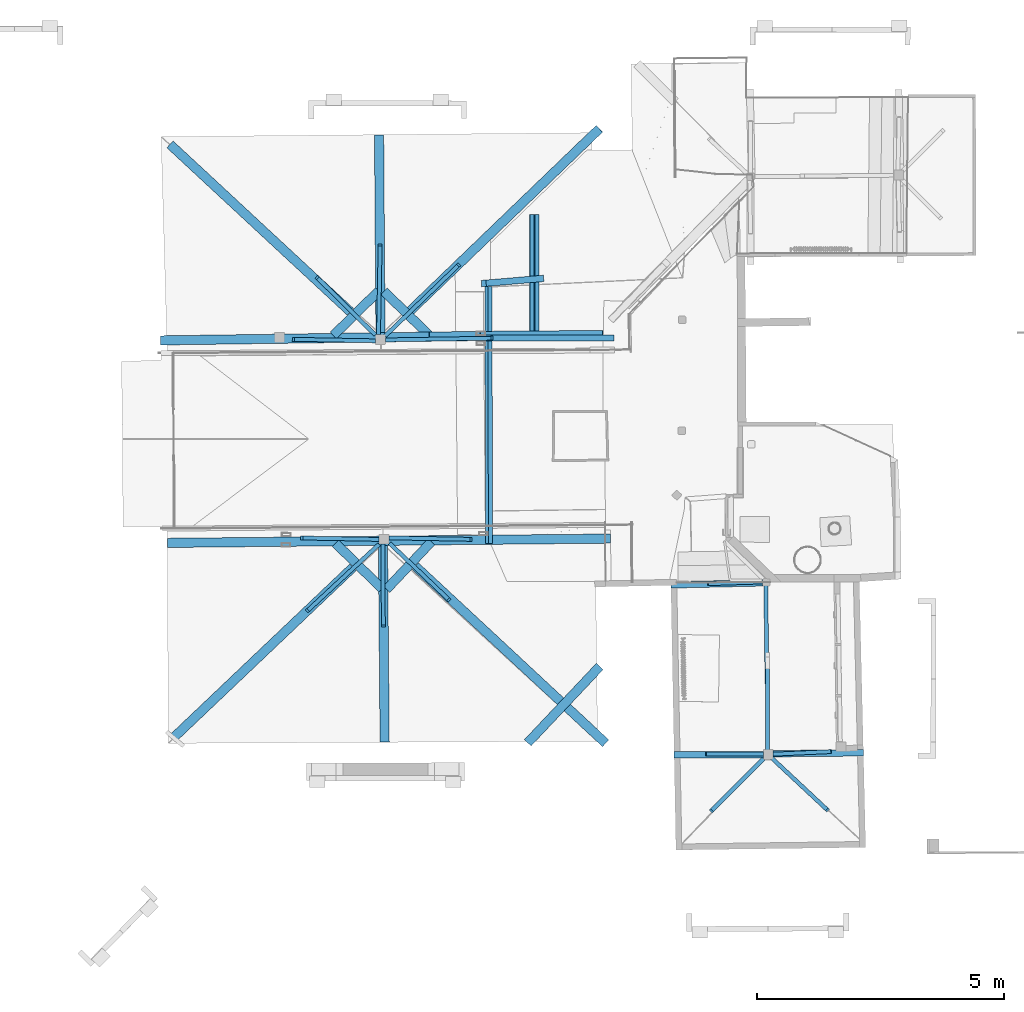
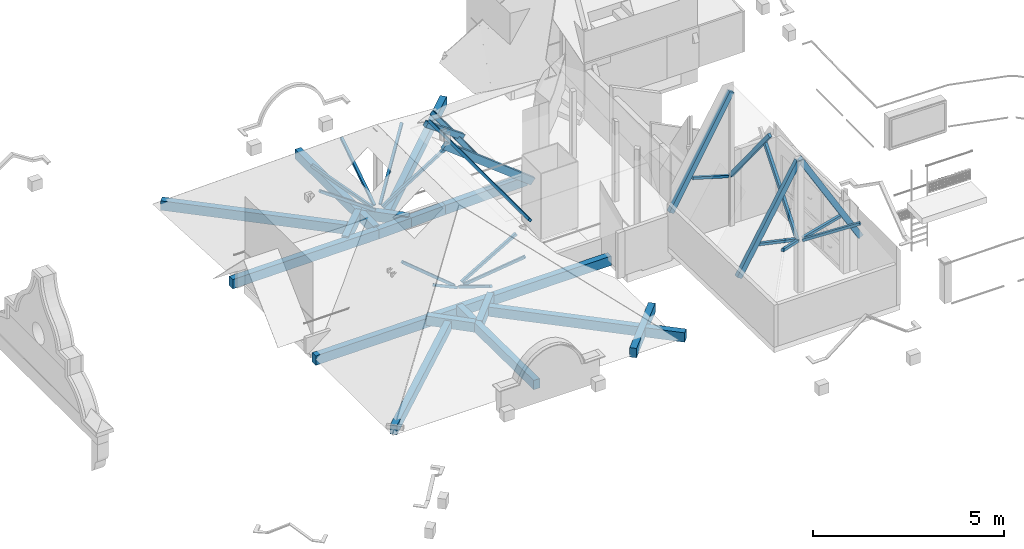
# One storey, part 4 of 39: 40 beams.
"""IFC2X3 building model written with IfcOpenShell, lengths in centimetres."""

from ifc_helpers import new_model, entity, si_unit, converted_unit, direction, frame, origin, origin_with_axes, origin_2d_with_axis, place, context, subcontext, project, spatial, rectangle, rounded_rectangle, extrude, source, transform, mapped, material, type_object, element, save


model = new_model("IFC2X3")

# Units and contexts
model_context = context("Model", 3, precision=0.0001, world=origin(), true_north=direction((0.225632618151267, 0.974212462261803, 0.0)))
body_context = subcontext(model_context, "Body", "Model", "MODEL_VIEW")
ifc_project = project(units=[si_unit("LENGTHUNIT", "METRE", prefix="CENTI"), si_unit("AREAUNIT", "SQUARE_METRE", prefix="CENTI"), si_unit("VOLUMEUNIT", "CUBIC_METRE", prefix="CENTI"), converted_unit("PLANEANGLEUNIT", "DEGREE", entity("IfcRatioMeasure", 0.0174532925), si_unit("PLANEANGLEUNIT", "RADIAN"), dimensions=[0, 0, 0, 0, 0, 0, 0])], contexts=[model_context])

# Site, building, storey
site_placement = place(None, origin_with_axes())
site = spatial("IfcSite", under=ifc_project, at=site_placement, Name="Default Site", CompositionType="ELEMENT")
building_placement = place(site_placement, origin_with_axes())
building = spatial("IfcBuilding", under=site, at=building_placement, Name="Default Building", CompositionType="ELEMENT")
storey_placement = place(building_placement, frame((0.0, 0.0, 1088.91037418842), z_axis=(0.0, 0.0, 1.0), x_axis=(1.0, 0.0, 0.0)))
storey = spatial("IfcBuildingStorey", under=building, at=storey_placement, Name="Mezzanine", CompositionType="ELEMENT", Elevation=1088.91037418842)

# Beams
ifc_material = material(Name="Eyong")
beam_type_1 = type_object("IfcBeamType", Name="120x220", PredefinedType="NOTDEFINED", material=ifc_material)
shared_shape_1 = source(origin_with_axes(), body_context, "Body", "SweptSolid", [
    extrude(rectangle(XDim=12.0, YDim=22.0, at=origin_2d_with_axis()), origin_with_axes(), (0.0, 0.0, 1.0), 100.0),
])
beam_1_placement = place(storey_placement, frame((-9.6526278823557, 135.559993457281, 213.702416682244), z_axis=(-0.789231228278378, -2.3520923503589e-08, 0.61409613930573), x_axis=(2.98023223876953e-08, -1.0, 0.0)))
element("IfcBeam", 1, at=beam_1_placement, inside=storey, type_object=beam_type_1, material=ifc_material, Name="Poutre 1819848", ObjectType="beam", context=body_context, shape_type="MappedRepresentation", body=[
    mapped(shared_shape_1, transform((-6.00000000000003, -10.9999999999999, 0.0), x_axis=(1.0, -3.30872245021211e-24, 6.61744490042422e-24), y_axis=(-2.00304890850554e-24, 1.0, 0.0), z_axis=(-8.8914162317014e-24, 6.60643094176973e-17, -1.0), scale=1.0, scale2=1.0, scale3=3.36103725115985, uniform=False)),
])
beam_type_2 = type_object("IfcBeamType", Name="150.0x150.0x25.0", PredefinedType="NOTDEFINED", material=ifc_material)
shared_shape_2 = source(origin_with_axes(), body_context, "Body", "SweptSolid", [
    extrude(rounded_rectangle(XDim=15.0, YDim=15.0, RoundingRadius=2.5, at=origin_2d_with_axis()), origin_with_axes(), (0.0, 0.0, 1.0), 100.0),
])
beam_2_placement = place(storey_placement, frame((85.7799993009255, 156.050019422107, 116.702416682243), z_axis=(-6.12323399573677e-17, -1.0, 0.0), x_axis=(0.707106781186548, -4.32978028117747e-17, 0.707106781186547)))
element("IfcBeam", 2, at=beam_2_placement, inside=storey, type_object=beam_type_2, material=ifc_material, Name="Poutre 1819841", ObjectType="beam", context=body_context, shape_type="MappedRepresentation", body=[
    mapped(shared_shape_2, transform((4.99999999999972, -7.50000000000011, 2.22044604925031e-14), x_axis=(1.0, 0.0, 1.66838336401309e-32), y_axis=(0.0, 1.0, -1.80509382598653e-33), z_axis=(-1.4772273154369e-32, -4.35788199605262e-33, -1.0), scale=1.0, scale2=1.0, scale3=2.36709980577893, uniform=False)),
])
beam_type_3 = type_object("IfcBeamType", Name="80x80", PredefinedType="NOTDEFINED", material=ifc_material)
shared_shape_3 = source(origin_with_axes(), body_context, "Body", "SweptSolid", [
    extrude(rectangle(XDim=8.0, YDim=8.0, at=origin_2d_with_axis()), origin_with_axes(), (0.0, 0.0, 1.0), 100.0),
])
beam_3_placement = place(storey_placement, frame((-227.642617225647, 140.218652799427, 79.7024166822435), z_axis=(0.817378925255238, -0.0149513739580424, -0.575906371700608), x_axis=(0.0182887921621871, 0.999832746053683, -2.00233586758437e-16)))
element("IfcBeam", 3, at=beam_3_placement, inside=storey, type_object=beam_type_3, material=ifc_material, Name="Poutre 1819922", ObjectType="beam", context=body_context, shape_type="MappedRepresentation", body=[
    mapped(shared_shape_3, transform((-4.00000000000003, -3.99999999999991, 0.0), x_axis=(1.0, -1.44297130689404e-18, 4.86614068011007e-18), y_axis=(-1.44297130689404e-18, 1.0, 0.0), z_axis=(-5.23927244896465e-18, -5.53245853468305e-17, -1.0), scale=1.0, scale2=1.0, scale3=2.0067444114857, uniform=False)),
])
beam_4_placement = place(storey_placement, frame((447.806314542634, -356.078977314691, 244.107539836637), z_axis=(-0.953706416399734, -0.0292879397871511, 0.299309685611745), x_axis=(0.0306951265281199, -0.999528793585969, 0.0)))
element("IfcBeam", 4, at=beam_4_placement, inside=storey, type_object=beam_type_3, material=ifc_material, Name="Poutre 1875076", ObjectType="beam", context=body_context, shape_type="MappedRepresentation", body=[
    mapped(shared_shape_3, transform((0.0, -4.00000000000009, -7.7715611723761e-14), x_axis=(1.0, 3.46944695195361e-18, -6.93889390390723e-18), y_axis=(1.81425010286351e-18, 1.0, 5.55111512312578e-17), z_axis=(5.19219538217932e-19, -4.82922998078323e-17, -1.0), scale=1.0, scale2=1.0, scale3=1.14948245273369, uniform=False)),
])
beam_5_placement = place(storey_placement, frame((-220.218868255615, -262.406218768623, 79.7024166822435), z_axis=(0.772040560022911, -0.0141220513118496, -0.635416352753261), x_axis=(0.0182887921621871, 0.999832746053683, -1.90861755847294e-16)))
element("IfcBeam", 5, at=beam_5_placement, inside=storey, type_object=beam_type_3, material=ifc_material, Name="Poutre 1820269", ObjectType="beam", context=body_context, shape_type="MappedRepresentation", body=[
    mapped(shared_shape_3, transform((-4.0, -4.00000000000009, 1.77635683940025e-13), x_axis=(1.0, -2.41877440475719e-18, -9.32419749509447e-18), y_axis=(6.55449991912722e-19, 1.0, 0.0), z_axis=(8.6917456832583e-18, 5.55111512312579e-17, -1.0), scale=1.0, scale2=1.0, scale3=2.0, uniform=False)),
])
beam_6_placement = place(storey_placement, frame((-215.761183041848, -440.11167349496, 179.702416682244), z_axis=(0.00324334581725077, -0.853866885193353, 0.520481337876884), x_axis=(0.999992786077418, 0.0037983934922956, 0.0)))
element("IfcBeam", 6, at=beam_6_placement, inside=storey, type_object=beam_type_3, material=ifc_material, Name="Poutre 1820286", ObjectType="beam", context=body_context, shape_type="MappedRepresentation", body=[
    mapped(shared_shape_3, transform((4.0, -4.00000000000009, 0.0), x_axis=(1.0, 1.85154202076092e-19, 5.46542268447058e-19), y_axis=(1.85154202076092e-19, 1.0, 0.0), z_axis=(-1.12861399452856e-19, -5.77850365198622e-17, -1.0), scale=1.0, scale2=1.0, scale3=1.92129847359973, uniform=False)),
])
beam_7_placement = place(storey_placement, frame((-366.526419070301, -406.423087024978, 218.382077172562), z_axis=(-0.59841047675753, -0.555077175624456, 0.57774927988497), x_axis=(0.680063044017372, -0.733153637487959, -2.55425995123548e-16)))
element("IfcBeam", 7, at=beam_7_placement, inside=storey, type_object=beam_type_3, material=ifc_material, Name="Poutre 1820283", ObjectType="beam", context=body_context, shape_type="MappedRepresentation", body=[
    mapped(shared_shape_3, transform((3.99999999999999, -4.0, -1.77635683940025e-13), x_axis=(1.0, 1.81541275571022e-17, -3.32995719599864e-17), y_axis=(-2.71548674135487e-17, 1.0, 0.0), z_axis=(-8.64376869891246e-18, 0.0, -1.0), scale=1.0, scale2=1.0, scale3=2.4, uniform=False)),
])
beam_8_placement = place(storey_placement, frame((-217.507819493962, 149.080677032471, 81.7024166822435), z_axis=(-0.0157007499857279, -0.858346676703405, -0.512829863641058), x_axis=(0.999832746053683, -0.018288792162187, -2.12004193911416e-16)))
element("IfcBeam", 8, at=beam_8_placement, inside=storey, type_object=beam_type_3, material=ifc_material, Name="Poutre 1819943", ObjectType="beam", context=body_context, shape_type="MappedRepresentation", body=[
    mapped(shared_shape_3, transform((-4.0, -4.00000000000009, 8.88178419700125e-14), x_axis=(1.0, 3.68225975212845e-18, 9.09229298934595e-20), y_axis=(4.58293063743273e-19, 1.0, -1.11022302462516e-16), z_axis=(1.20486881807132e-18, 0.0, -1.0), scale=1.0, scale2=1.0, scale3=2.08663312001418, uniform=False)),
])
beam_9_placement = place(storey_placement, frame((-225.013481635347, 150.789987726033, 79.7024166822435), z_axis=(0.598964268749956, -0.592151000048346, -0.539072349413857), x_axis=(0.703050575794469, 0.711139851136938, -2.06294070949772e-16)))
element("IfcBeam", 9, at=beam_9_placement, inside=storey, type_object=beam_type_3, material=ifc_material, Name="Poutre 1819940", ObjectType="beam", context=body_context, shape_type="MappedRepresentation", body=[
    mapped(shared_shape_3, transform((-4.00000000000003, -4.00000000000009, 0.0), x_axis=(1.0, -6.13758297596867e-17, -1.47233288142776e-16), y_axis=(1.751271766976e-17, 1.0, 5.55111512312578e-17), z_axis=(1.11148242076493e-16, -1.13998197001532e-16, -1.0), scale=1.0, scale2=1.0, scale3=1.94779049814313, uniform=False)),
])
beam_10_placement = place(storey_placement, frame((-207.64260764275, 134.075923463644, 79.7024166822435), z_axis=(-0.853761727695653, -0.0137872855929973, -0.520481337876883), x_axis=(0.0161467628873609, -0.99986963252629, -2.09138578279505e-16)))
element("IfcBeam", 10, at=beam_10_placement, inside=storey, type_object=beam_type_3, material=ifc_material, Name="Poutre 1819956", ObjectType="beam", context=body_context, shape_type="MappedRepresentation", body=[
    mapped(shared_shape_3, transform((-4.0, -3.99999999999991, 0.0), x_axis=(1.0, 2.66320750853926e-18, 2.52881144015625e-18), y_axis=(1.18197389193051e-18, 1.0, -5.55111512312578e-17), z_axis=(1.15563570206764e-18, 0.0, -1.0), scale=1.0, scale2=1.0, scale3=2.51396742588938, uniform=False)),
])
beam_11_placement = place(storey_placement, frame((-205.086753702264, 143.462400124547, 81.7024166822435), z_axis=(-0.618044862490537, -0.595840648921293, -0.512829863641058), x_axis=(0.694056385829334, -0.719920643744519, -2.10269470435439e-16)))
element("IfcBeam", 11, at=beam_11_placement, inside=storey, type_object=beam_type_3, material=ifc_material, Name="Poutre 1819950", ObjectType="beam", context=body_context, shape_type="MappedRepresentation", body=[
    mapped(shared_shape_3, transform((-3.99999999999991, -3.99999999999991, 0.0), x_axis=(1.0, 6.31047335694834e-17, 1.83616143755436e-16), y_axis=(-1.62343090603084e-17, 1.0, -5.55111512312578e-17), z_axis=(-4.94090327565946e-17, 9.29298478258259e-17, -1.0), scale=1.0, scale2=1.0, scale3=2.38937876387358, uniform=False)),
])
beam_12_placement = place(storey_placement, frame((687.295124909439, -813.757181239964, 292.16307110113), z_axis=(0.653108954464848, -0.610091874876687, 0.448594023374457), x_axis=(0.682631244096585, 0.730763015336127, 0.0)))
element("IfcBeam", 12, at=beam_12_placement, inside=storey, type_object=beam_type_3, material=ifc_material, Name="Poutre 1872902", ObjectType="beam", context=body_context, shape_type="MappedRepresentation", body=[
    mapped(shared_shape_3, transform((2.22044604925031e-14, -3.99999999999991, 0.0), x_axis=(1.0, -5.25617228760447e-17, -1.24509853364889e-17), y_axis=(-2.94942835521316e-18, 1.0, 0.0), z_axis=(-1.24509853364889e-17, -6.42957921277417e-17, -1.0), scale=1.0, scale2=1.0, scale3=1.72674289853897, uniform=False)),
])
beam_13_placement = place(storey_placement, frame((578.768429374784, -701.863944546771, 214.702416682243), z_axis=(-0.974034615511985, -0.0434340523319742, -0.222193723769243), x_axis=(0.0445476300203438, -0.999007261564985, 0.0)))
element("IfcBeam", 13, at=beam_13_placement, inside=storey, type_object=beam_type_3, material=ifc_material, Name="Poutre 1872884", ObjectType="beam", context=body_context, shape_type="MappedRepresentation", body=[
    mapped(shared_shape_3, transform((0.0, -4.00000000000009, 0.0), x_axis=(1.0, 1.73472347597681e-18, 6.93889390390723e-18), y_axis=(4.33636841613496e-20, 1.0, 0.0), z_axis=(-3.85444668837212e-19, 0.0, -1.0), scale=1.0, scale2=1.0, scale3=1.19812549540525, uniform=False)),
])
beam_14_placement = place(storey_placement, frame((443.235979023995, -701.326477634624, 243.013522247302), z_axis=(-0.976829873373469, -2.05851503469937e-08, 0.214017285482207), x_axis=(1.65633472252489e-08, -1.0, -2.05851502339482e-08)))
element("IfcBeam", 14, at=beam_14_placement, inside=storey, type_object=beam_type_3, material=ifc_material, Name="Poutre 1873925", ObjectType="beam", context=body_context, shape_type="MappedRepresentation", body=[
    mapped(shared_shape_3, transform((-1.77635683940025e-13, -3.99999999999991, -8.88178419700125e-14), x_axis=(1.0, 3.30872245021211e-24, -2.48154183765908e-24), y_axis=(-3.30872245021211e-24, 1.0, 0.0), z_axis=(-2.09826017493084e-24, -2.34686427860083e-17, -1.0), scale=1.0, scale2=1.0, scale3=1.18266641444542, uniform=False)),
])
beam_15_placement = place(storey_placement, frame((454.541324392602, -815.63668792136, 289.529674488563), z_axis=(-0.639128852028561, -0.639128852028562, 0.427818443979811), x_axis=(0.707106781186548, -0.707106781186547, -2.21383000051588e-16)))
element("IfcBeam", 15, at=beam_15_placement, inside=storey, type_object=beam_type_3, material=ifc_material, Name="Poutre 1872920", ObjectType="beam", context=body_context, shape_type="MappedRepresentation", body=[
    mapped(shared_shape_3, transform((-1.77635683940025e-13, -4.00000000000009, 0.0), x_axis=(1.0, -8.16711031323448e-17, 1.46937937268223e-16), y_axis=(-3.74095798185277e-18, 1.0, -5.55111512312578e-17), z_axis=(-2.91734186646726e-17, 0.0, -1.0), scale=1.0, scale2=1.0, scale3=1.63217034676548, uniform=False)),
])
beam_16_placement = place(storey_placement, frame((-36.1917901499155, -270.254047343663, 179.702416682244), z_axis=(0.853730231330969, -0.0156163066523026, 0.520481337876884), x_axis=(0.0182887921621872, 0.999832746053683, -1.73472347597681e-18)))
element("IfcBeam", 16, at=beam_16_placement, inside=storey, type_object=beam_type_3, material=ifc_material, Name="Poutre 1820292", ObjectType="beam", context=body_context, shape_type="MappedRepresentation", body=[
    mapped(shared_shape_3, transform((4.0, -4.00000000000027, -1.77635683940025e-13), x_axis=(1.0, 1.98821333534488e-18, 8.31832280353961e-19), y_axis=(5.06979718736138e-19, 1.0, -5.55111512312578e-17), z_axis=(4.00964237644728e-34, 0.0, -1.0), scale=1.0, scale2=1.0, scale3=1.92129847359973, uniform=False)),
])
beam_17_placement = place(storey_placement, frame((-83.0377556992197, -390.168846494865, 195.272105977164), z_axis=(0.592171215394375, -0.563617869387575, 0.575906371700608), x_axis=(0.689427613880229, 0.724354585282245, 3.21166678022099e-16)))
element("IfcBeam", 17, at=beam_17_placement, inside=storey, type_object=beam_type_3, material=ifc_material, Name="Poutre 1820289", ObjectType="beam", context=body_context, shape_type="MappedRepresentation", body=[
    mapped(shared_shape_3, transform((4.0, -4.00000000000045, 0.0), x_axis=(1.0, 1.28444575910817e-16, -1.42446379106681e-17), y_axis=(-1.78290459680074e-17, 1.0, 1.11022302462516e-16), z_axis=(-3.32123449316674e-17, 1.65973756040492e-16, -1.0), scale=1.0, scale2=0.999999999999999, scale3=2.0067444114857, uniform=False)),
])
beam_type_4 = type_object("IfcBeamType", Name="80x120", PredefinedType="NOTDEFINED", material=ifc_material)
shared_shape_4 = source(origin_with_axes(), body_context, "Body", "SweptSolid", [
    extrude(rectangle(XDim=8.0, YDim=12.0, at=origin_2d_with_axis()), origin_with_axes(), (0.0, 0.0, 1.0), 100.0),
])
beam_18_placement = place(storey_placement, frame((566.044046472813, -549.878439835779, 458.724838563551), z_axis=(0.00726095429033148, -0.627841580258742, 0.778307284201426), x_axis=(0.999933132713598, 0.0115641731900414, 0.0)))
element("IfcBeam", 18, at=beam_18_placement, inside=storey, type_object=beam_type_4, material=ifc_material, Name="Poutre 1881704", ObjectType="beam", context=body_context, shape_type="MappedRepresentation", body=[
    mapped(shared_shape_4, transform((8.88178419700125e-14, -6.00000000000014, -1.77635683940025e-13), x_axis=(1.0, 0.0, 2.60208521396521e-18), y_axis=(-1.19012129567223e-18, 1.0, 0.0), z_axis=(-2.84347830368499e-18, -6.93889390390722e-17, -1.0), scale=1.0, scale2=1.0, scale3=3.2, uniform=False)),
])
beam_19_placement = place(storey_placement, frame((567.289034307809, -706.874863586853, 203.966877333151), z_axis=(-3.86938349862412e-17, -0.631918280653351, -0.775035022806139), x_axis=(1.0, 1.28596492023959e-16, -1.54775339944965e-16)))
element("IfcBeam", 19, at=beam_19_placement, inside=storey, type_object=beam_type_4, material=ifc_material, Name="Poutre 1883045", ObjectType="beam", context=body_context, shape_type="MappedRepresentation", body=[
    mapped(shared_shape_4, transform((0.0, -6.00000000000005, 8.88178419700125e-14), x_axis=(1.0, 0.0, 2.46519032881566e-32), y_axis=(-3.69778549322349e-32, 1.0, 0.0), z_axis=(-3.46225867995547e-32, 0.0, -1.0), scale=1.0, scale2=1.0, scale3=2.84807180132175, uniform=False)),
])
beam_20_placement = place(storey_placement, frame((-1.48366850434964, -274.516490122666, 214.702416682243), z_axis=(0.00235714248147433, -0.999997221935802, 0.0), x_axis=(0.707104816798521, 0.0016667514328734, 0.707106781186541)))
element("IfcBeam", 20, at=beam_20_placement, inside=storey, type_object=beam_type_4, material=ifc_material, Name="Poutre 1900126", ObjectType="beam", context=body_context, shape_type="MappedRepresentation", body=[
    mapped(shared_shape_4, transform((0.0, -6.00000000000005, -4.44089209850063e-14), x_axis=(1.0, 0.0, 1.53329341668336e-19), y_axis=(1.11022302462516e-16, 1.0, 1.53329341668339e-19), z_axis=(0.0, 0.0, -1.0), scale=1.0, scale2=1.0, scale3=5.21136269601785, uniform=False)),
])
beam_type_5 = type_object("IfcBeamType", Name="187x300", PredefinedType="NOTDEFINED", material=ifc_material)
shared_shape_5 = source(origin_with_axes(), body_context, "Body", "SweptSolid", [
    extrude(rectangle(XDim=18.7, YDim=30.0, at=origin_2d_with_axis()), origin_with_axes(), (0.0, 0.0, 1.0), 100.0),
])
beam_21_placement = place(storey_placement, frame((-217.831238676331, 152.635960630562, 9.70241668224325), z_axis=(-0.999698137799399, -0.0139107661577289, -0.0202515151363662), x_axis=(0.0139136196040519, -0.999903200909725, -2.44879128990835e-16)))
element("IfcBeam", 21, at=beam_21_placement, inside=storey, type_object=beam_type_5, material=ifc_material, Name="Poutre 1717275", ObjectType="beam", context=body_context, shape_type="MappedRepresentation", body=[
    mapped(shared_shape_5, transform((9.34999999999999, -14.9999999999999, 2.22044604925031e-14), x_axis=(1.0, 5.02180621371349e-20, -1.97996491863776e-18), y_axis=(5.02180621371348e-20, 1.0, 0.0), z_axis=(2.06722676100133e-18, -3.51307787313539e-18, -1.0), scale=1.0, scale2=1.0, scale3=0.987580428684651, uniform=False)),
])
beam_22_placement = place(storey_placement, frame((-119.103007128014, 154.009760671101, 11.7024166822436), z_axis=(-0.999485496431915, -0.0139078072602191, -0.0289018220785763), x_axis=(0.0139136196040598, -0.999903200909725, 0.0)))
element("IfcBeam", 22, at=beam_22_placement, inside=storey, type_object=beam_type_5, material=ifc_material, Name="Poutre 1717274", ObjectType="beam", context=body_context, shape_type="MappedRepresentation", body=[
    mapped(shared_shape_5, transform((9.34999999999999, -15.0000000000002, -2.22044604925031e-14), x_axis=(1.0, -5.42101086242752e-20, -1.73472347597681e-18), y_axis=(-5.42101086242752e-20, 1.0, 0.0), z_axis=(1.6712223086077e-18, 0.0, -1.0), scale=1.0, scale2=1.0, scale3=1.03799684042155, uniform=False)),
])
beam_23_placement = place(storey_placement, frame((-319.490722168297, 153.805561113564, 14.7024166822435), z_axis=(-0.713591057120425, -0.700562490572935, 0.0), x_axis=(0.700562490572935, -0.713591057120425, 0.0)))
element("IfcBeam", 23, at=beam_23_placement, inside=storey, type_object=beam_type_5, material=ifc_material, Name="Poutre 1715116", ObjectType="beam", context=body_context, shape_type="MappedRepresentation", body=[
    mapped(shared_shape_5, transform((9.35000000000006, -15.0, 4.44089209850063e-14), x_axis=(1.0, 0.0, 0.0), y_axis=(0.0, 1.0, 0.0), z_axis=(0.0, 0.0, -1.0), scale=1.0, scale2=1.0, scale3=1.28402757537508, uniform=False)),
])
beam_24_placement = place(storey_placement, frame((-15.3567283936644, 155.453386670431, 14.7024166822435), z_axis=(-0.999767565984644, -0.00765914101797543, -0.0201532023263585), x_axis=(0.00766069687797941, -0.999970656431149, -2.44879615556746e-16)))
element("IfcBeam", 24, at=beam_24_placement, inside=storey, type_object=beam_type_5, material=ifc_material, Name="Poutre 1715126", ObjectType="beam", context=body_context, shape_type="MappedRepresentation", body=[
    mapped(shared_shape_5, transform((9.35000000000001, -15.0000000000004, 2.77555756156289e-15), x_axis=(1.0, 4.97371249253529e-20, 1.46595471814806e-18), y_axis=(2.26375755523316e-20, 1.0, -3.46944695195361e-18), z_axis=(-7.40719940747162e-19, 2.79681865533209e-18, -1.0), scale=1.0, scale2=1.0, scale3=2.48099528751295, uniform=False)),
])
beam_25_placement = place(storey_placement, frame((-285.091062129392, 188.429066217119, 14.7024166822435), z_axis=(0.732983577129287, -0.680246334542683, 0.0), x_axis=(0.680246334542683, 0.732983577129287, 0.0)))
element("IfcBeam", 25, at=beam_25_placement, inside=storey, type_object=beam_type_5, material=ifc_material, Name="Poutre 1715110", ObjectType="beam", context=body_context, shape_type="MappedRepresentation", body=[
    mapped(shared_shape_5, transform((9.34999999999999, -15.0, 0.0), x_axis=(1.0, 0.0, 0.0), y_axis=(0.0, 1.0, 0.0), z_axis=(0.0, 0.0, -1.0), scale=1.0, scale2=1.0, scale3=4.98705556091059, uniform=False)),
])
beam_26_placement = place(storey_placement, frame((-198.628563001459, -374.134847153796, 19.7024166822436), z_axis=(-0.68596220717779, -0.727637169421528, 0.0), x_axis=(0.727637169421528, -0.68596220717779, 0.0)))
element("IfcBeam", 26, at=beam_26_placement, inside=storey, type_object=beam_type_5, material=ifc_material, Name="Poutre 1717252", ObjectType="beam", context=body_context, shape_type="MappedRepresentation", body=[
    mapped(shared_shape_5, transform((-9.34999999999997, -15.0000000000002, -8.88178419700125e-14), x_axis=(1.0, 0.0, 0.0), y_axis=(0.0, 1.0, 0.0), z_axis=(0.0, 0.0, -1.0), scale=1.0, scale2=1.0, scale3=1.32732725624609, uniform=False)),
])
beam_27_placement = place(storey_placement, frame((-220.985828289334, -372.754356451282, 19.7024166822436), z_axis=(0.715893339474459, -0.698209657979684, 0.0), x_axis=(0.698209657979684, 0.715893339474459, -2.44929359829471e-16)))
element("IfcBeam", 27, at=beam_27_placement, inside=storey, type_object=beam_type_5, material=ifc_material, Name="Poutre 1717249", ObjectType="beam", context=body_context, shape_type="MappedRepresentation", body=[
    mapped(shared_shape_5, transform((9.34999999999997, -15.0000000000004, 2.22044604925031e-14), x_axis=(1.0, 0.0, 0.0), y_axis=(0.0, 1.0, 0.0), z_axis=(0.0, 0.0, -1.0), scale=1.0, scale2=1.0, scale3=1.31711844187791, uniform=False)),
])
beam_28_placement = place(storey_placement, frame((-163.567916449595, 203.952711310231, 14.7024166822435), z_axis=(-0.720525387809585, -0.693371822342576, -0.0088702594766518), x_axis=(0.693399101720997, -0.720553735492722, -2.44919723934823e-16)))
element("IfcBeam", 28, at=beam_28_placement, inside=storey, type_object=beam_type_5, material=ifc_material, Name="Poutre 1715130", ObjectType="beam", context=body_context, shape_type="MappedRepresentation", body=[
    mapped(shared_shape_5, transform((9.34999999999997, -15.0, 1.11022302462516e-14), x_axis=(1.0, 9.58865682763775e-21, -1.08860366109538e-16), y_axis=(9.58865682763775e-21, 1.0, -1.73472347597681e-18), z_axis=(1.64781751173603e-16, 2.60849511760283e-18, -1.0), scale=1.0, scale2=1.0, scale3=5.32022763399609, uniform=False)),
])
beam_29_placement = place(storey_placement, frame((-643.230581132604, -661.394564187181, 18.6244530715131), z_axis=(-0.725105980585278, -0.688612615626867, 0.00582945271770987), x_axis=(0.688624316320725, -0.725118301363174, 0.0)))
element("IfcBeam", 29, at=beam_29_placement, inside=storey, type_object=beam_type_5, material=ifc_material, Name="Poutre 1716385", ObjectType="beam", context=body_context, shape_type="MappedRepresentation", body=[
    mapped(shared_shape_5, transform((9.35000000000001, -15.0, -1.77635683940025e-13), x_axis=(1.0, 4.33680868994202e-19, -1.11022302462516e-16), y_axis=(0.0, 1.0, 8.67361737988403e-19), z_axis=(0.0, -1.38430698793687e-18, -1.0), scale=1.0, scale2=1.0, scale3=5.01253982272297, uniform=False)),
])
beam_30_placement = place(storey_placement, frame((-663.378925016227, 146.436179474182, 9.70241668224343), z_axis=(-0.999903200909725, -0.0139136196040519, 0.0), x_axis=(0.0139136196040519, -0.999903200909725, 0.0)))
element("IfcBeam", 30, at=beam_30_placement, inside=storey, type_object=beam_type_5, material=ifc_material, Name="Poutre 1715102", ObjectType="beam", context=body_context, shape_type="MappedRepresentation", body=[
    mapped(shared_shape_5, transform((9.35000000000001, -15.0000000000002, 0.0), x_axis=(1.0, 0.0, 0.0), y_axis=(0.0, 1.0, 0.0), z_axis=(0.0, 0.0, -1.0), scale=1.0, scale2=1.0, scale3=4.45590819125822, uniform=False)),
])
beam_31_placement = place(storey_placement, frame((-226.792935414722, 148.878530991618, 14.1261185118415), z_axis=(0.00719685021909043, -0.999953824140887, -0.00636827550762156), x_axis=(0.999974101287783, 0.00719699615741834, 6.7762635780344e-21)))
element("IfcBeam", 31, at=beam_31_placement, inside=storey, type_object=beam_type_5, material=ifc_material, Name="Poutre 1715113", ObjectType="beam", context=body_context, shape_type="MappedRepresentation", body=[
    mapped(shared_shape_5, transform((9.35000000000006, -15.0, 4.44089209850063e-14), x_axis=(1.0, -6.77640098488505e-21, -4.31531133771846e-23), y_axis=(-2.7481370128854e-25, 1.0, 0.0), z_axis=(8.57688671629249e-19, 0.0, -1.0), scale=1.0, scale2=1.0, scale3=4.04551933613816, uniform=False)),
])
beam_32_placement = place(storey_placement, frame((-649.360541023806, -282.805206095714, 9.70241668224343), z_axis=(-0.999953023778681, -0.00969279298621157, 0.0), x_axis=(0.00969279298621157, -0.999953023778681, 0.0)))
element("IfcBeam", 32, at=beam_32_placement, inside=storey, type_object=beam_type_5, material=ifc_material, Name="Poutre 1715216", ObjectType="beam", context=body_context, shape_type="MappedRepresentation", body=[
    mapped(shared_shape_5, transform((-9.35000000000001, -15.0000000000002, -1.77635683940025e-13), x_axis=(1.0, -2.44929359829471e-16, 2.29087582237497e-14), y_axis=(2.44929359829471e-16, 1.0, 5.61100429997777e-30), z_axis=(2.29084838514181e-14, 0.0, -1.0), scale=1.0, scale2=1.0, scale3=8.98572022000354, uniform=False)),
])
beam_33_placement = place(storey_placement, frame((245.36, -672.84, 19.7024166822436), z_axis=(0.732219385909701, -0.681068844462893, 0.0), x_axis=(0.681068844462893, 0.732219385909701, 0.0)))
element("IfcBeam", 33, at=beam_33_placement, inside=storey, type_object=beam_type_5, material=ifc_material, Name="Poutre 1717020", ObjectType="beam", context=body_context, shape_type="MappedRepresentation", body=[
    mapped(shared_shape_5, transform((-9.35000000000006, -15.0, 0.0), x_axis=(1.0, 0.0, 0.0), y_axis=(0.0, 1.0, 0.0), z_axis=(0.0, 0.0, -1.0), scale=1.0, scale2=1.0, scale3=5.27218133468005, uniform=False)),
])
beam_34_placement = place(storey_placement, frame((74.2614280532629, -672.309405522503, 19.7024166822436), z_axis=(-0.686207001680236, -0.727406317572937, 0.0), x_axis=(0.727406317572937, -0.686207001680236, 0.0)))
element("IfcBeam", 34, at=beam_34_placement, inside=storey, type_object=beam_type_5, material=ifc_material, Name="Poutre 1717259", ObjectType="beam", context=body_context, shape_type="MappedRepresentation", body=[
    mapped(shared_shape_5, transform((9.35000000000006, -15.0, 0.0), x_axis=(1.0, 0.0, -1.66533453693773e-16), y_axis=(0.0, 1.0, 0.0), z_axis=(-2.08840534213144e-16, 0.0, -1.0), scale=1.0, scale2=1.0, scale3=2.12645122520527, uniform=False)),
])
beam_35_placement = place(storey_placement, frame((-218.398567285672, -676.97902673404, 19.7024166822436), z_axis=(0.0087123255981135, -0.99996204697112, 0.0), x_axis=(0.99996204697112, 0.0087123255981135, 0.0)))
element("IfcBeam", 35, at=beam_35_placement, inside=storey, type_object=beam_type_5, material=ifc_material, Name="Poutre 1717170", ObjectType="beam", context=body_context, shape_type="MappedRepresentation", body=[
    mapped(shared_shape_5, transform((9.34999999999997, -15.0000000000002, -8.88178419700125e-14), x_axis=(1.0, 0.0, 0.0), y_axis=(0.0, 1.0, 0.0), z_axis=(1.74198441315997e-18, 0.0, -1.0), scale=1.0, scale2=1.0, scale3=3.98332720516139, uniform=False)),
])
beam_36_placement = place(storey_placement, frame((-112.019186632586, 154.108331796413, 14.7024166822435), z_axis=(0.717787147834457, -0.696262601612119, 0.0), x_axis=(0.696262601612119, 0.717787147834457, 0.0)))
element("IfcBeam", 36, at=beam_36_placement, inside=storey, type_object=beam_type_5, material=ifc_material, Name="Poutre 1715120", ObjectType="beam", context=body_context, shape_type="MappedRepresentation", body=[
    mapped(shared_shape_5, transform((-9.35, -15.0, -2.22044604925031e-14), x_axis=(1.0, 0.0, 0.0), y_axis=(0.0, 1.0, 0.0), z_axis=(0.0, 0.0, -1.0), scale=1.0, scale2=1.0, scale3=1.28204899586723, uniform=False)),
])
beam_type_6 = type_object("IfcBeamType", Name="130.0x160.0", PredefinedType="NOTDEFINED", material=ifc_material)
shared_shape_6 = source(origin_with_axes(), body_context, "Body", "SweptSolid", [
    extrude(rectangle(XDim=13.0, YDim=16.0, at=origin_2d_with_axis()), origin_with_axes(), (0.0, 0.0, 1.0), 100.0),
])
beam_37_placement = place(storey_placement, frame((-2.71206094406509, 246.618331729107, 208.95431318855), z_axis=(-0.802187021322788, -0.0671458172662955, 0.593285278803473), x_axis=(0.0834117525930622, -0.996515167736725, -1.97166244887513e-16)))
element("IfcBeam", 37, at=beam_37_placement, inside=storey, type_object=beam_type_6, material=ifc_material, Name="Poutre 1819909", ObjectType="beam", context=body_context, shape_type="MappedRepresentation", body=[
    mapped(shared_shape_6, transform((-6.49999999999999, -8.00000000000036, -1.77635683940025e-13), x_axis=(1.0, 1.571804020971e-17, -1.40075626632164e-17), y_axis=(1.571804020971e-17, 1.0, 0.0), z_axis=(6.14759282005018e-18, 0.0, -1.0), scale=1.0, scale2=1.0, scale3=1.45380139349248, uniform=False)),
])
beam_38_placement = place(storey_placement, frame((371.767311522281, -358.607685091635, 160.206554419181), z_axis=(-0.502305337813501, -0.0109906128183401, -0.864620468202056), x_axis=(0.0218751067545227, -0.99976071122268, -1.23058771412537e-16)))
element("IfcBeam", 38, at=beam_38_placement, inside=storey, type_object=beam_type_6, material=ifc_material, Name="Poutre 1884317", ObjectType="beam", context=body_context, shape_type="MappedRepresentation", body=[
    mapped(shared_shape_6, transform((-4.44089209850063e-14, -8.0000000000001, 3.5527136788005e-13), x_axis=(1.0, 4.03806338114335e-18, 6.73165069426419e-19), y_axis=(4.03806338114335e-18, 1.0, -5.55111512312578e-17), z_axis=(-3.21201488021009e-18, 0.0, -1.0), scale=1.0, scale2=1.0, scale3=3.69521511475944, uniform=False)),
])
beam_39_placement = place(storey_placement, frame((377.941671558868, -703.261768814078, 159.702416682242), z_axis=(-0.503844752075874, 0.0, -0.863794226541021), x_axis=(0.0, -1.0, 0.0)))
element("IfcBeam", 39, at=beam_39_placement, inside=storey, type_object=beam_type_6, material=ifc_material, Name="Poutre 1883057", ObjectType="beam", context=body_context, shape_type="MappedRepresentation", body=[
    mapped(shared_shape_6, transform((0.0, -8.0000000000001, 0.0), x_axis=(1.0, 3.50713643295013e-16, 1.84167866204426e-16), y_axis=(-3.50713643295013e-16, 1.0, 5.55111512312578e-17), z_axis=(1.84167866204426e-16, 1.23742482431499e-16, -1.0), scale=1.0, scale2=1.0, scale3=3.58881768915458, uniform=False)),
])
beam_40_placement = place(storey_placement, frame((578.759518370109, -700.933148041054, 469.702416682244), z_axis=(-0.508130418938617, -0.00494628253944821, 0.861265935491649), x_axis=(0.00973381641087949, -0.999952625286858, 0.0)))
element("IfcBeam", 40, at=beam_40_placement, inside=storey, type_object=beam_type_6, material=ifc_material, Name="Poutre 1888246", ObjectType="beam", context=body_context, shape_type="MappedRepresentation", body=[
    mapped(shared_shape_6, transform((8.88178419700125e-14, -8.00000000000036, -1.77635683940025e-13), x_axis=(1.0, 8.53215948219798e-19, -3.2287817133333e-18), y_axis=(8.53215948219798e-19, 1.0, 0.0), z_axis=(2.45796677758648e-18, 2.46760586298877e-16, -1.0), scale=1.0, scale2=1.0, scale3=3.5993528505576, uniform=False)),
])

save(model, "model.ifc")
